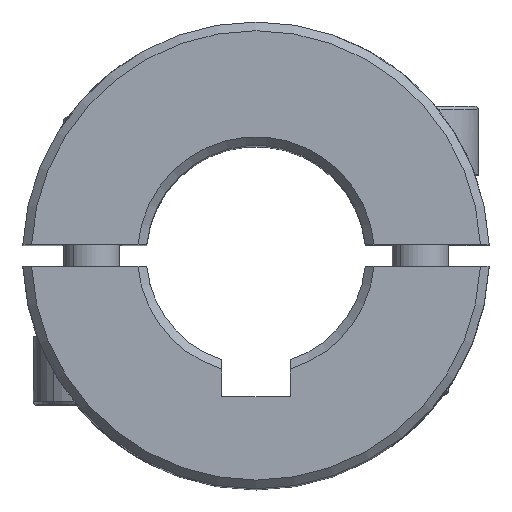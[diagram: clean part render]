
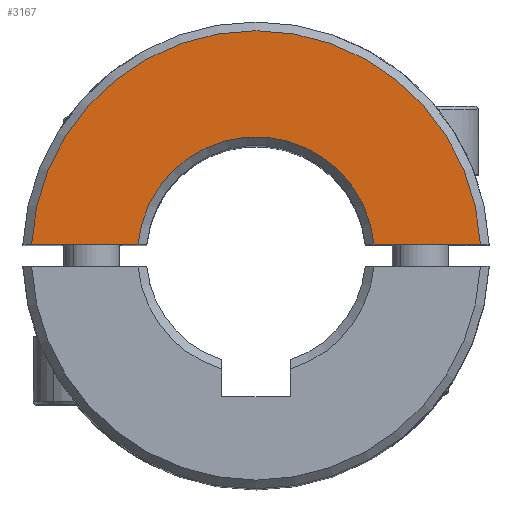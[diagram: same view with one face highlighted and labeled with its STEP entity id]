
A CAD part, top view. The second image highlights one B-rep face of the part: STEP entity #3167.
In plain terms, the highlighted planar face has unit normal (0, 0, 1).
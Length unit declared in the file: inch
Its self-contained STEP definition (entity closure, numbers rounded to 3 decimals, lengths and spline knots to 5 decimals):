
#918=DIRECTION('',(-1.,0.,0.));
#919=VECTOR('',#918,0.30502);
#920=CARTESIAN_POINT('',(0.64352,0.0315,0.98425));
#921=LINE('',#920,#919);
#949=CARTESIAN_POINT('',(0.,0.,0.98425));
#950=DIRECTION('',(0.,0.,-1.));
#951=DIRECTION('',(-0.996,0.093,0.));
#952=AXIS2_PLACEMENT_3D('',#949,#950,#951);
#984=DIRECTION('',(-1.,0.,0.));
#985=VECTOR('',#984,0.30502);
#986=CARTESIAN_POINT('',(-0.3385,0.0315,0.98425));
#987=LINE('',#986,#985);
#991=CARTESIAN_POINT('',(-0.3385,0.0315,0.98425));
#1085=CARTESIAN_POINT('',(0.,0.,0.98425));
#1086=DIRECTION('',(0.,0.,1.));
#1087=DIRECTION('',(0.999,0.049,0.));
#1088=AXIS2_PLACEMENT_3D('',#1085,#1086,#1087);
#2370=CARTESIAN_POINT('',(0.64352,0.0315,0.98425));
#2371=CARTESIAN_POINT('',(0.3385,0.0315,0.98425));
#2372=VERTEX_POINT('',#2370);
#2373=VERTEX_POINT('',#2371);
#2382=VERTEX_POINT('',#991);
#2387=CARTESIAN_POINT('',(-0.64352,0.0315,0.98425));
#2388=VERTEX_POINT('',#2387);
#3156=CARTESIAN_POINT('',(0.,0.,0.98425));
#3157=DIRECTION('',(0.,0.,1.));
#3158=DIRECTION('',(1.,0.,0.));
#3159=AXIS2_PLACEMENT_3D('',#3156,#3157,#3158);
#3160=PLANE('',#3159);
#3161=ORIENTED_EDGE('',*,*,#3054,.F.);
#3162=ORIENTED_EDGE('',*,*,#3074,.T.);
#3163=ORIENTED_EDGE('',*,*,#3150,.F.);
#3164=ORIENTED_EDGE('',*,*,#3026,.T.);
#3165=EDGE_LOOP('',(#3161,#3162,#3163,#3164));
#3166=FACE_OUTER_BOUND('',#3165,.F.);
#953=CIRCLE('',#952,0.33996);
#1089=CIRCLE('',#1088,0.64429);
#3026=EDGE_CURVE('',#2372,#2373,#921,.T.);
#3054=EDGE_CURVE('',#2382,#2373,#953,.T.);
#3074=EDGE_CURVE('',#2382,#2388,#987,.T.);
#3150=EDGE_CURVE('',#2372,#2388,#1089,.T.);
#3167=ADVANCED_FACE('',(#3166),#3160,.T.);
